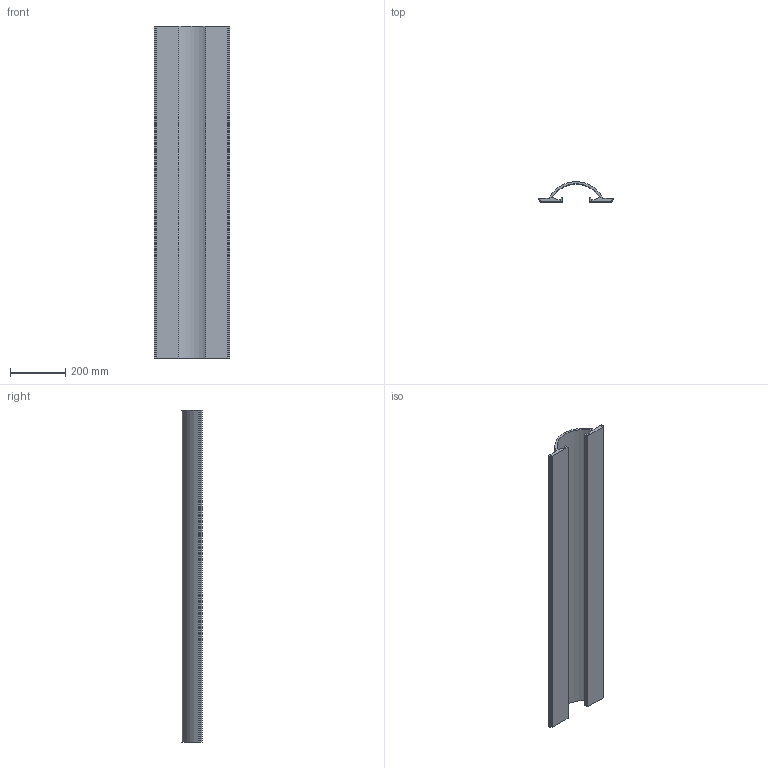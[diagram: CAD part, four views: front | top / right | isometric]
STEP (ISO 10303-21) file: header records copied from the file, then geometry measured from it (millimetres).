
FILE_DESCRIPTION (( 'STEP AP214' ), '1' );
FILE_NAME ('7002.STEP', '2017-10-12T12:49:23', ( '' ), ( '' ), 'SwSTEP 2.0', 'SolidWorks 2016', '' );
FILE_SCHEMA (( 'AUTOMOTIVE_DESIGN' ));
Length unit declared in the file: millimetre
Products named in the file (1): 7002
Bounding box: 274 x 72.61 x 1200 mm (x, y, z)
Volume: 4539267.2 mm3; surface area: 1036917.1 mm2
Topology: 1 solids, 1 shells, 28 faces, 78 edges, 52 vertices
Faces by surface type: plane 26, cylinder 2
Entity records: 920 total; most frequent: CARTESIAN_POINT 159, ORIENTED_EDGE 156, DIRECTION 140, EDGE_CURVE 78, VECTOR 74, LINE 74, VERTEX_POINT 52, AXIS2_PLACEMENT_3D 33
